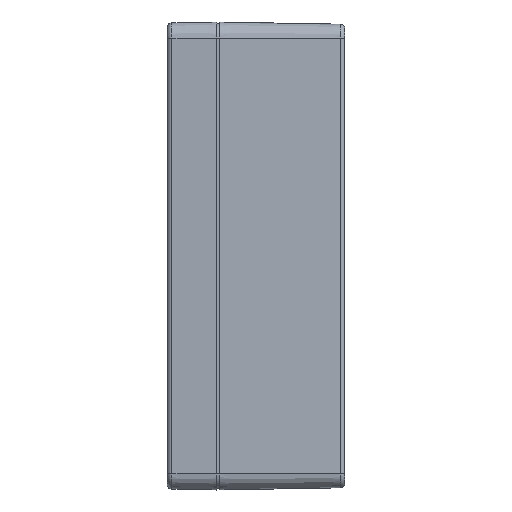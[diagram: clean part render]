
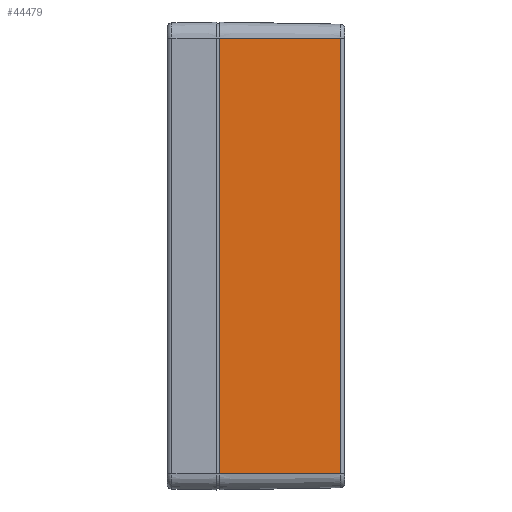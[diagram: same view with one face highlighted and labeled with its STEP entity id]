
A CAD part, left-side view. The second image highlights one B-rep face of the part: STEP entity #44479.
In plain terms, the highlighted planar face has unit normal (-1, -0.018, 0).
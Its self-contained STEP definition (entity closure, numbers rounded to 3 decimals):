
#2211 = FACE_OUTER_BOUND ( 'NONE', #50588, .T. ) ;
#2531 = DIRECTION ( 'NONE',  ( -1., -0.017, 0. ) ) ;
#7677 = CARTESIAN_POINT ( 'NONE',  ( -111., 0., 68. ) ) ;
#8842 = EDGE_CURVE ( 'NONE', #58692, #29912, #31519, .T. ) ;
#9610 = CARTESIAN_POINT ( 'NONE',  ( -110.323, -38.772, 68. ) ) ;
#10093 = CARTESIAN_POINT ( 'NONE',  ( -110.323, -38.772, 68. ) ) ;
#14365 = VERTEX_POINT ( 'NONE', #35369 ) ;
#15210 = DIRECTION ( 'NONE',  ( -0.017, 1., 0. ) ) ;
#16756 = ORIENTED_EDGE ( 'NONE', *, *, #46623, .T. ) ;
#17181 = DIRECTION ( 'NONE',  ( 0.017, -1., 0. ) ) ;
#18806 = CARTESIAN_POINT ( 'NONE',  ( -110.323, -38.772, -68. ) ) ;
#19091 = VECTOR ( 'NONE', #28884, 1000. ) ;
#19204 = ORIENTED_EDGE ( 'NONE', *, *, #35665, .F. ) ;
#20881 = PLANE ( 'NONE',  #24636 ) ;
#22962 = DIRECTION ( 'NONE',  ( -0.017, 1., 0. ) ) ;
#24636 = AXIS2_PLACEMENT_3D ( 'NONE', #58232, #2531, #17181 ) ;
#25306 = LINE ( 'NONE', #43080, #42614 ) ;
#25529 = VERTEX_POINT ( 'NONE', #18806 ) ;
#26777 = VECTOR ( 'NONE', #45431, 1000. ) ;
#28884 = DIRECTION ( 'NONE',  ( 0., 0., 1. ) ) ;
#29912 = VERTEX_POINT ( 'NONE', #58970 ) ;
#31519 = LINE ( 'NONE', #7677, #49166 ) ;
#35369 = CARTESIAN_POINT ( 'NONE',  ( -110.983, -1., -68. ) ) ;
#35622 = LINE ( 'NONE', #40518, #26777 ) ;
#35665 = EDGE_CURVE ( 'NONE', #25529, #14365, #25306, .T. ) ;
#40518 = CARTESIAN_POINT ( 'NONE',  ( -110.983, -1., 68. ) ) ;
#42614 = VECTOR ( 'NONE', #15210, 1000. ) ;
#43080 = CARTESIAN_POINT ( 'NONE',  ( -111., 0., -68. ) ) ;
#44126 = ORIENTED_EDGE ( 'NONE', *, *, #55631, .T. ) ;
#44479 = ADVANCED_FACE ( 'NONE', ( #2211 ), #20881, .T. ) ;
#45431 = DIRECTION ( 'NONE',  ( 0., 0., -1. ) ) ;
#46623 = EDGE_CURVE ( 'NONE', #29912, #14365, #35622, .T. ) ;
#49166 = VECTOR ( 'NONE', #22962, 1000. ) ;
#50588 = EDGE_LOOP ( 'NONE', ( #55397, #16756, #19204, #44126 ) ) ;
#55397 = ORIENTED_EDGE ( 'NONE', *, *, #8842, .T. ) ;
#55631 = EDGE_CURVE ( 'NONE', #25529, #58692, #55837, .T. ) ;
#55837 = LINE ( 'NONE', #9610, #19091 ) ;
#58232 = CARTESIAN_POINT ( 'NONE',  ( -111., 0., 68. ) ) ;
#58692 = VERTEX_POINT ( 'NONE', #10093 ) ;
#58970 = CARTESIAN_POINT ( 'NONE',  ( -110.983, -1., 68. ) ) ;
